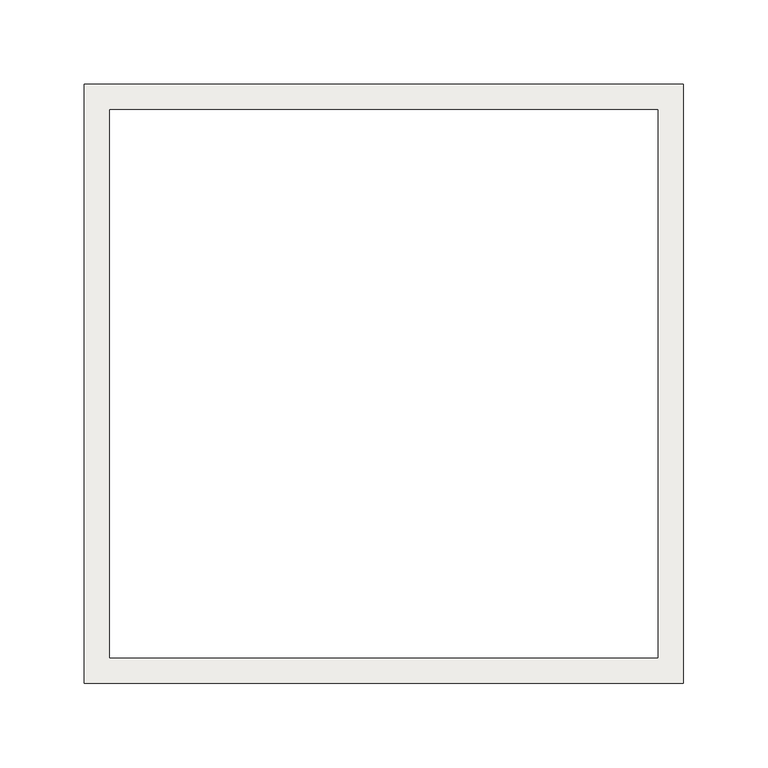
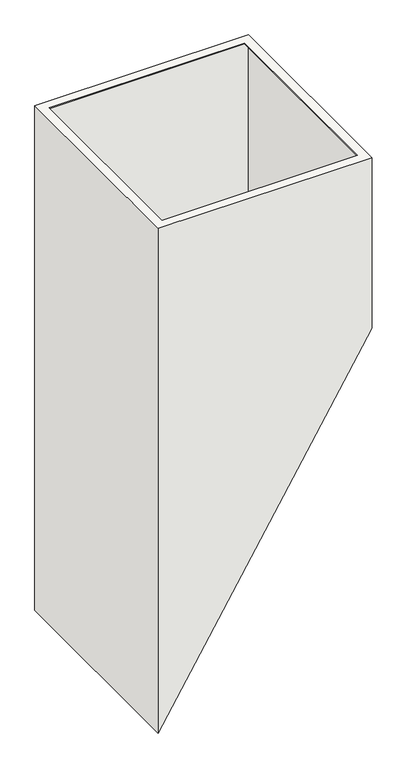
"""IFC4 building model written with IfcOpenShell, lengths in millimetres: covering geometry, MG_BPC_Mini Delta_mountingbox_M&G : mountingbox Mini-Delta."""

from ifc_helpers import new_model, si_unit, origin, place, context, project, spatial, faceted_brep, source, transform, mapped, element, save


def covering_9975e37f(model_context):
    return source(origin(), model_context, "Body", "Brep", [
        faceted_brep([(355.5, -177.75, 0.0), (355.5, 177.75, 0.0), (0.0, 177.75, 0.0), (0.0, -177.75, 0.0), (340.25, -162.5, 0.0), (15.25, -162.5, 0.0), (15.25, 162.5, 0.0), (340.25, 162.5, 0.0), (355.5, -177.75, -1.3), (355.5, -177.75, -300.0), (355.5, 177.75, -300.0), (355.5, 177.75, -1.3), (0.0, 177.75, -887.25), (0.0, 177.75, -1.3), (0.0, -177.75, -887.25), (0.0, -177.75, -1.3), (1.3, -176.45, -885.1025316), (1.3, 176.45, -885.1025316), (1.3, 176.45, -1.3), (1.3, -176.45, -1.3), (354.2, 176.45, -302.1474684), (354.2, 176.45, -1.3), (354.2, -176.45, -302.1474684), (354.2, -176.45, -1.3), (15.25, -162.5, -1.3), (340.25, -162.5, -1.3), (340.25, 162.5, -1.3), (15.25, 162.5, -1.3)], [[[0, 1, 2, 3], [4, 5, 6, 7]], [[1, 0, 8, 9, 10, 11]], [[2, 1, 11, 10, 12, 13]], [[3, 2, 13, 12, 14, 15]], [[0, 3, 15, 14, 9, 8]], [[16, 17, 18, 19]], [[17, 20, 21, 18]], [[20, 22, 23, 21]], [[22, 16, 19, 23]], [[10, 9, 14, 12], [17, 16, 22, 20]], [[24, 5, 4, 25]], [[25, 4, 7, 26]], [[26, 7, 6, 27]], [[5, 24, 27, 6]], [[19, 18, 21, 23], [24, 25, 26, 27]]]),
    ])


if __name__ == "__main__":
    model = new_model("IFC4")
    model_context = context("Model", 3, world=origin())
    ifc_project = project(units=[si_unit("LENGTHUNIT", "METRE", prefix="MILLI")], contexts=[model_context])
    site = spatial("IfcSite", under=ifc_project)
    building = spatial("IfcBuilding", under=site)
    placement = place(None, origin())
    covering_shape = covering_9975e37f(model_context)
    element("IfcCovering", 1, ObjectType="MG_BPC_Mini Delta_mountingbox_M&G : mountingbox Mini-Delta", at=placement, inside=building, context=model_context, shape_type="MappedRepresentation", body=[
        mapped(covering_shape, transform((0.0, 0.0, 0.0), x_axis=(1.0, 0.0, 0.0), y_axis=(0.0, 1.0, 0.0), z_axis=(0.0, 0.0, 1.0))),
    ])
    save(model, "model.ifc")
